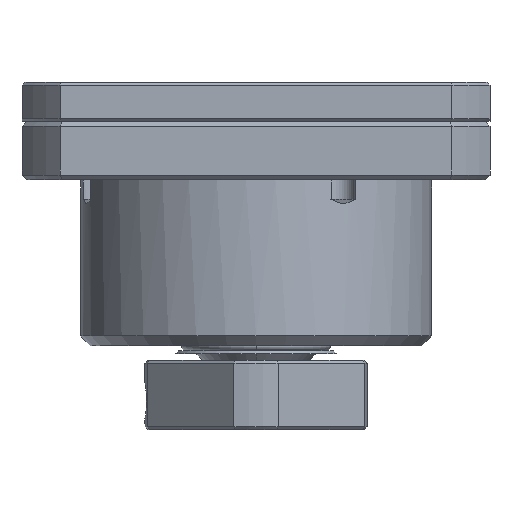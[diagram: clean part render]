
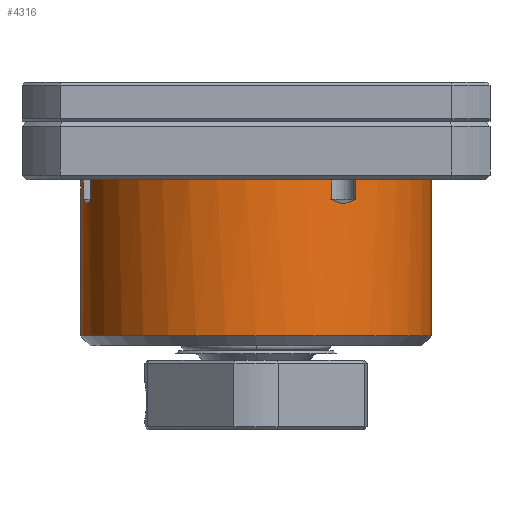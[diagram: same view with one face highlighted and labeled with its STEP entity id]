
A CAD part, front view. The second image highlights one B-rep face of the part: STEP entity #4316.
In plain terms, the highlighted cylindrical face has radius 18 mm (diameter 36 mm), a partial arc.
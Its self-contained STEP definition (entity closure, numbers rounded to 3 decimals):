
#26 = AXIS2_PLACEMENT_3D ( 'NONE', #7897, #7886, #7880 ) ;
#41 = CARTESIAN_POINT ( 'NONE',  ( 10.17, -14.852, -8. ) ) ;
#165 = CARTESIAN_POINT ( 'NONE',  ( -17.449, -4.426, -8.406 ) ) ;
#379 = ORIENTED_EDGE ( 'NONE', *, *, #5522, .F. ) ;
#384 = DIRECTION ( 'NONE',  ( 0., 0., 1. ) ) ;
#424 = CARTESIAN_POINT ( 'NONE',  ( 7.777, -16.233, -8. ) ) ;
#454 = CARTESIAN_POINT ( 'NONE',  ( 10.17, -14.852, -8. ) ) ;
#575 = ORIENTED_EDGE ( 'NONE', *, *, #2538, .F. ) ;
#663 = DIRECTION ( 'NONE',  ( 0., 0., 1. ) ) ;
#730 = ORIENTED_EDGE ( 'NONE', *, *, #7430, .F. ) ;
#740 = ORIENTED_EDGE ( 'NONE', *, *, #5830, .F. ) ;
#793 = EDGE_LOOP ( 'NONE', ( #575, #2584, #1021, #740, #7372, #2376, #1118, #379, #2275, #4884, #730, #6320 ) ) ;
#843 = VERTEX_POINT ( 'NONE', #5590 ) ;
#850 = CARTESIAN_POINT ( 'NONE',  ( -17.322, -4.893, -8.392 ) ) ;
#908 = VECTOR ( 'NONE', #6849, 1000. ) ;
#1021 = ORIENTED_EDGE ( 'NONE', *, *, #6752, .T. ) ;
#1044 = VERTEX_POINT ( 'NONE', #1769 ) ;
#1118 = ORIENTED_EDGE ( 'NONE', *, *, #5950, .F. ) ;
#1283 = EDGE_CURVE ( 'NONE', #7711, #5344, #4045, .T. ) ;
#1325 = VECTOR ( 'NONE', #384, 1000. ) ;
#1389 = VERTEX_POINT ( 'NONE', #1847 ) ;
#1407 = VECTOR ( 'NONE', #6079, 1000. ) ;
#1435 = DIRECTION ( 'NONE',  ( -1., 0., 0. ) ) ;
#1456 = DIRECTION ( 'NONE',  ( 0., 0., 1. ) ) ;
#1468 = CARTESIAN_POINT ( 'NONE',  ( 0., 0., -22. ) ) ;
#1492 = CARTESIAN_POINT ( 'NONE',  ( -17.223, -5.233, -8.314 ) ) ;
#1512 = VERTEX_POINT ( 'NONE', #1893 ) ;
#1723 = LINE ( 'NONE', #3496, #1325 ) ;
#1736 = CARTESIAN_POINT ( 'NONE',  ( 8.174, -16.039, -8.2 ) ) ;
#1769 = CARTESIAN_POINT ( 'NONE',  ( 18., 0., -6. ) ) ;
#1806 = VERTEX_POINT ( 'NONE', #3344 ) ;
#1847 = CARTESIAN_POINT ( 'NONE',  ( 7.777, -16.233, -6. ) ) ;
#1893 = CARTESIAN_POINT ( 'NONE',  ( -17.693, -3.31, -6. ) ) ;
#2136 = CARTESIAN_POINT ( 'NONE',  ( -17.051, -5.772, -8.103 ) ) ;
#2235 = VECTOR ( 'NONE', #4024, 1000. ) ;
#2275 = ORIENTED_EDGE ( 'NONE', *, *, #1283, .F. ) ;
#2367 = CARTESIAN_POINT ( 'NONE',  ( 8.791, -15.709, -8.406 ) ) ;
#2373 = CARTESIAN_POINT ( 'NONE',  ( -18., 0., 29.63 ) ) ;
#2376 = ORIENTED_EDGE ( 'NONE', *, *, #6761, .F. ) ;
#2538 = EDGE_CURVE ( 'NONE', #843, #6577, #2594, .T. ) ;
#2584 = ORIENTED_EDGE ( 'NONE', *, *, #5092, .T. ) ;
#2594 = LINE ( 'NONE', #2373, #908 ) ;
#2738 = CARTESIAN_POINT ( 'NONE',  ( -17.693, -3.31, -8. ) ) ;
#2768 = CARTESIAN_POINT ( 'NONE',  ( -16.978, -5.98, -8. ) ) ;
#2865 = VECTOR ( 'NONE', #663, 1000. ) ;
#2959 = CARTESIAN_POINT ( 'NONE',  ( 9.21, -15.466, -8.392 ) ) ;
#2981 = CIRCLE ( 'NONE', #3095, 18. ) ;
#3095 = AXIS2_PLACEMENT_3D ( 'NONE', #1468, #1456, #1435 ) ;
#3283 = B_SPLINE_CURVE_WITH_KNOTS ( 'NONE', 3,
 ( #424, #6461, #1736, #5893, #2367, #6490, #2959, #7071, #3523, #7715, #4106, #454 ),
 .UNSPECIFIED., .F., .F.,
 ( 4, 2, 2, 2, 2, 4 ),
 ( 0., 0.001, 0.001, 0.002, 0.002, 0.003 ),
 .UNSPECIFIED. ) ;
#3344 = CARTESIAN_POINT ( 'NONE',  ( 18., 0., -22. ) ) ;
#3496 = CARTESIAN_POINT ( 'NONE',  ( 18., 0., 29.63 ) ) ;
#3508 = CARTESIAN_POINT ( 'NONE',  ( -17.693, -3.31, -8. ) ) ;
#3523 = CARTESIAN_POINT ( 'NONE',  ( 9.512, -15.282, -8.314 ) ) ;
#3670 = CIRCLE ( 'NONE', #6182, 18. ) ;
#3793 = DIRECTION ( 'NONE',  ( 1., 0., 0. ) ) ;
#3798 = DIRECTION ( 'NONE',  ( 0., 0., 1. ) ) ;
#3812 = CARTESIAN_POINT ( 'NONE',  ( 0., 0., -6. ) ) ;
#3871 = CARTESIAN_POINT ( 'NONE',  ( -17.506, -4.193, -8.352 ) ) ;
#3978 = CARTESIAN_POINT ( 'NONE',  ( 7.777, -16.233, -4.287 ) ) ;
#4024 = DIRECTION ( 'NONE',  ( 0., 0., -1. ) ) ;
#4045 = LINE ( 'NONE', #6671, #7017 ) ;
#4106 = CARTESIAN_POINT ( 'NONE',  ( 9.989, -14.976, -8.103 ) ) ;
#4296 = CARTESIAN_POINT ( 'NONE',  ( -17.693, -3.31, -4.287 ) ) ;
#4316 = ADVANCED_FACE ( 'NONE', ( #7341 ), #6945, .T. ) ;
#4470 = CARTESIAN_POINT ( 'NONE',  ( -17.355, -4.775, -8.406 ) ) ;
#4709 = CIRCLE ( 'NONE', #26, 18. ) ;
#4817 = CARTESIAN_POINT ( 'NONE',  ( 0., 0., 29.63 ) ) ;
#4884 = ORIENTED_EDGE ( 'NONE', *, *, #7052, .F. ) ;
#4935 = DIRECTION ( 'NONE',  ( 1., 0., 0. ) ) ;
#5043 = DIRECTION ( 'NONE',  ( 0., 0., 1. ) ) ;
#5085 = CARTESIAN_POINT ( 'NONE',  ( -17.256, -5.122, -8.346 ) ) ;
#5092 = EDGE_CURVE ( 'NONE', #843, #1806, #2981, .T. ) ;
#5256 = LINE ( 'NONE', #3978, #2235 ) ;
#5344 = VERTEX_POINT ( 'NONE', #6238 ) ;
#5482 = DIRECTION ( 'NONE',  ( 1., 0., 0. ) ) ;
#5486 = DIRECTION ( 'NONE',  ( 0., 0., 1. ) ) ;
#5495 = B_SPLINE_CURVE_WITH_KNOTS ( 'NONE', 3,
 ( #2738, #6241, #7455, #3871, #165, #4470, #850, #5085, #1492, #5681, #2136, #6269 ),
 .UNSPECIFIED., .F., .F.,
 ( 4, 2, 2, 2, 2, 4 ),
 ( 0., 0.001, 0.001, 0.002, 0.002, 0.003 ),
 .UNSPECIFIED. ) ;
#5496 = CARTESIAN_POINT ( 'NONE',  ( 0., 0., -6. ) ) ;
#5522 = EDGE_CURVE ( 'NONE', #5344, #1389, #4709, .T. ) ;
#5590 = CARTESIAN_POINT ( 'NONE',  ( -18., 0., -22. ) ) ;
#5681 = CARTESIAN_POINT ( 'NONE',  ( -17.121, -5.561, -8.2 ) ) ;
#5830 = EDGE_CURVE ( 'NONE', #7911, #1044, #7800, .T. ) ;
#5893 = CARTESIAN_POINT ( 'NONE',  ( 8.581, -15.825, -8.352 ) ) ;
#5950 = EDGE_CURVE ( 'NONE', #1389, #7620, #5256, .T. ) ;
#5969 = EDGE_CURVE ( 'NONE', #6577, #1512, #3670, .T. ) ;
#5994 = VERTEX_POINT ( 'NONE', #3508 ) ;
#6069 = DIRECTION ( 'NONE',  ( 0., 0., 1. ) ) ;
#6079 = DIRECTION ( 'NONE',  ( 0., 0., -1. ) ) ;
#6167 = LINE ( 'NONE', #7232, #2865 ) ;
#6182 = AXIS2_PLACEMENT_3D ( 'NONE', #3812, #3798, #3793 ) ;
#6238 = CARTESIAN_POINT ( 'NONE',  ( -16.978, -5.98, -6. ) ) ;
#6241 = CARTESIAN_POINT ( 'NONE',  ( -17.653, -3.527, -8.103 ) ) ;
#6269 = CARTESIAN_POINT ( 'NONE',  ( -16.978, -5.98, -8. ) ) ;
#6320 = ORIENTED_EDGE ( 'NONE', *, *, #5969, .F. ) ;
#6345 = VERTEX_POINT ( 'NONE', #41 ) ;
#6461 = CARTESIAN_POINT ( 'NONE',  ( 7.975, -16.138, -8.103 ) ) ;
#6490 = CARTESIAN_POINT ( 'NONE',  ( 9.105, -15.528, -8.406 ) ) ;
#6515 = CARTESIAN_POINT ( 'NONE',  ( 10.17, -14.852, -6. ) ) ;
#6577 = VERTEX_POINT ( 'NONE', #7334 ) ;
#6671 = CARTESIAN_POINT ( 'NONE',  ( -16.978, -5.98, -4.287 ) ) ;
#6748 = CARTESIAN_POINT ( 'NONE',  ( 7.777, -16.233, -8. ) ) ;
#6752 = EDGE_CURVE ( 'NONE', #1806, #1044, #1723, .T. ) ;
#6761 = EDGE_CURVE ( 'NONE', #7620, #6345, #3283, .T. ) ;
#6821 = AXIS2_PLACEMENT_3D ( 'NONE', #5496, #5486, #5482 ) ;
#6849 = DIRECTION ( 'NONE',  ( 0., 0., 1. ) ) ;
#6945 = CYLINDRICAL_SURFACE ( 'NONE', #7041, 18. ) ;
#7017 = VECTOR ( 'NONE', #6069, 1000. ) ;
#7041 = AXIS2_PLACEMENT_3D ( 'NONE', #4817, #5043, #4935 ) ;
#7052 = EDGE_CURVE ( 'NONE', #5994, #7711, #5495, .T. ) ;
#7071 = CARTESIAN_POINT ( 'NONE',  ( 9.414, -15.343, -8.346 ) ) ;
#7232 = CARTESIAN_POINT ( 'NONE',  ( 10.17, -14.852, -4.287 ) ) ;
#7334 = CARTESIAN_POINT ( 'NONE',  ( -18., 0., -6. ) ) ;
#7341 = FACE_OUTER_BOUND ( 'NONE', #793, .T. ) ;
#7372 = ORIENTED_EDGE ( 'NONE', *, *, #7436, .F. ) ;
#7430 = EDGE_CURVE ( 'NONE', #1512, #5994, #7588, .T. ) ;
#7436 = EDGE_CURVE ( 'NONE', #6345, #7911, #6167, .T. ) ;
#7455 = CARTESIAN_POINT ( 'NONE',  ( -17.608, -3.744, -8.2 ) ) ;
#7588 = LINE ( 'NONE', #4296, #1407 ) ;
#7620 = VERTEX_POINT ( 'NONE', #6748 ) ;
#7711 = VERTEX_POINT ( 'NONE', #2768 ) ;
#7715 = CARTESIAN_POINT ( 'NONE',  ( 9.803, -15.098, -8.2 ) ) ;
#7800 = CIRCLE ( 'NONE', #6821, 18. ) ;
#7880 = DIRECTION ( 'NONE',  ( 1., 0., 0. ) ) ;
#7886 = DIRECTION ( 'NONE',  ( 0., 0., 1. ) ) ;
#7897 = CARTESIAN_POINT ( 'NONE',  ( 0., 0., -6. ) ) ;
#7911 = VERTEX_POINT ( 'NONE', #6515 ) ;
